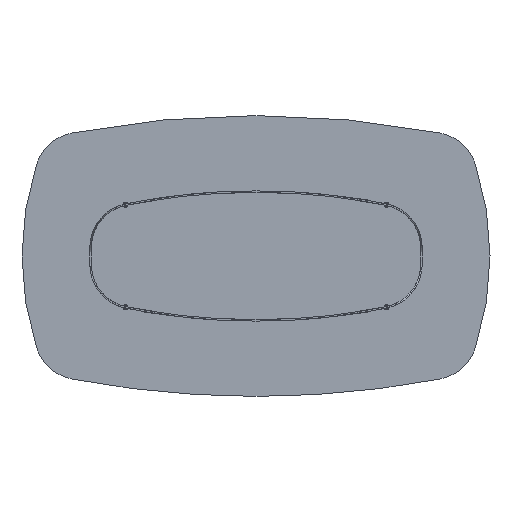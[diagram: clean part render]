
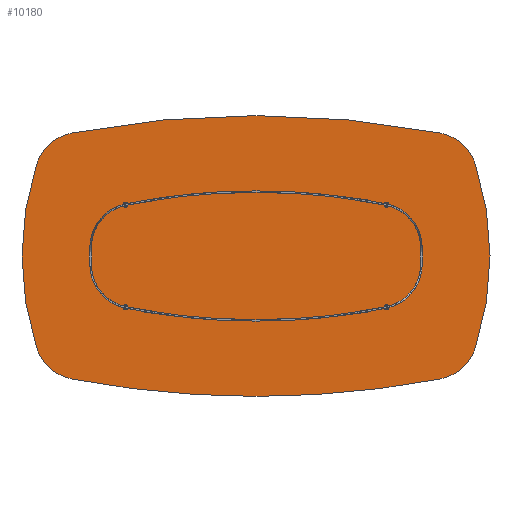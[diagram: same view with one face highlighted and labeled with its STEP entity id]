
A CAD part, front view. The second image highlights one B-rep face of the part: STEP entity #10180.
In plain terms, the highlighted planar face has unit normal (0, -1, 0).
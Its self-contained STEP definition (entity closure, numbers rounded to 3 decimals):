
#264 = DIRECTION ( 'NONE',  ( 0., 1., 0. ) ) ;
#275 = CARTESIAN_POINT ( 'NONE',  ( -747.529, 0., 329.529 ) ) ;
#288 = DIRECTION ( 'NONE',  ( 0., 0., 1. ) ) ;
#370 = VERTEX_POINT ( 'NONE', #10081 ) ;
#1059 = EDGE_CURVE ( 'NONE', #8741, #13940, #4185, .T. ) ;
#1200 = AXIS2_PLACEMENT_3D ( 'NONE', #5312, #2757, #5390 ) ;
#1309 = CARTESIAN_POINT ( 'NONE',  ( 0., 0., -600. ) ) ;
#1480 = CARTESIAN_POINT ( 'NONE',  ( 261., 0., 0. ) ) ;
#1957 = VERTEX_POINT ( 'NONE', #12182 ) ;
#2021 = AXIS2_PLACEMENT_3D ( 'NONE', #9664, #11043, #14874 ) ;
#2625 = CARTESIAN_POINT ( 'NONE',  ( 0., 0., 3600. ) ) ;
#2757 = DIRECTION ( 'NONE',  ( 0., -1., 0. ) ) ;
#3329 = EDGE_CURVE ( 'NONE', #370, #15860, #9333, .T. ) ;
#3656 = ORIENTED_EDGE ( 'NONE', *, *, #13555, .F. ) ;
#3872 = AXIS2_PLACEMENT_3D ( 'NONE', #10861, #4536, #4707 ) ;
#3981 = DIRECTION ( 'NONE',  ( 0., 0., 1. ) ) ;
#4016 = ORIENTED_EDGE ( 'NONE', *, *, #4629, .F. ) ;
#4053 = ORIENTED_EDGE ( 'NONE', *, *, #3329, .F. ) ;
#4185 = CIRCLE ( 'NONE', #2021, 4200. ) ;
#4348 = CARTESIAN_POINT ( 'NONE',  ( -130.5, 0., 1800. ) ) ;
#4536 = DIRECTION ( 'NONE',  ( 0., 1., 0. ) ) ;
#4629 = EDGE_CURVE ( 'NONE', #1957, #14572, #8257, .T. ) ;
#4707 = DIRECTION ( 'NONE',  ( 0., 0., 1. ) ) ;
#4940 = EDGE_CURVE ( 'NONE', #8741, #14572, #10448, .T. ) ;
#5034 = DIRECTION ( 'NONE',  ( 0., -1., 0. ) ) ;
#5312 = CARTESIAN_POINT ( 'NONE',  ( -747.529, 0., -329.529 ) ) ;
#5390 = DIRECTION ( 'NONE',  ( 0., 0., 1. ) ) ;
#5514 = CARTESIAN_POINT ( 'NONE',  ( 937.639, 0., -391.646 ) ) ;
#5528 = VERTEX_POINT ( 'NONE', #1309 ) ;
#5937 = EDGE_CURVE ( 'NONE', #1957, #9618, #15095, .T. ) ;
#6085 = AXIS2_PLACEMENT_3D ( 'NONE', #1480, #10769, #13323 ) ;
#6484 = DIRECTION ( 'NONE',  ( 0., 0., 1. ) ) ;
#6485 = DIRECTION ( 'NONE',  ( 0., 0., 1. ) ) ;
#6692 = EDGE_CURVE ( 'NONE', #370, #13940, #7461, .T. ) ;
#6741 = DIRECTION ( 'NONE',  ( 0., -1., 0. ) ) ;
#6746 = FACE_OUTER_BOUND ( 'NONE', #13751, .T. ) ;
#7461 = CIRCLE ( 'NONE', #9636, 200. ) ;
#7944 = DIRECTION ( 'NONE',  ( 0., -1., 0. ) ) ;
#8024 = DIRECTION ( 'NONE',  ( 0., 0., 1. ) ) ;
#8257 = CIRCLE ( 'NONE', #6085, 1261. ) ;
#8643 = EDGE_CURVE ( 'NONE', #15695, #5528, #12598, .T. ) ;
#8741 = VERTEX_POINT ( 'NONE', #14426 ) ;
#8804 = AXIS2_PLACEMENT_3D ( 'NONE', #11974, #10865, #288 ) ;
#9216 = CARTESIAN_POINT ( 'NONE',  ( 747.529, 0., -329.529 ) ) ;
#9333 = CIRCLE ( 'NONE', #8804, 1261. ) ;
#9409 = ORIENTED_EDGE ( 'NONE', *, *, #11388, .T. ) ;
#9597 = CIRCLE ( 'NONE', #15345, 200. ) ;
#9618 = VERTEX_POINT ( 'NONE', #10879 ) ;
#9619 = CARTESIAN_POINT ( 'NONE',  ( -937.639, 0., 391.646 ) ) ;
#9636 = AXIS2_PLACEMENT_3D ( 'NONE', #14077, #5034, #6484 ) ;
#9664 = CARTESIAN_POINT ( 'NONE',  ( 0., 0., -3600. ) ) ;
#9893 = AXIS2_PLACEMENT_3D ( 'NONE', #275, #7944, #13161 ) ;
#10081 = CARTESIAN_POINT ( 'NONE',  ( 937.639, 0., 391.646 ) ) ;
#10180 = ADVANCED_FACE ( 'NONE', ( #6746 ), #12038, .F. ) ;
#10448 = CIRCLE ( 'NONE', #9893, 200. ) ;
#10769 = DIRECTION ( 'NONE',  ( 0., 1., 0. ) ) ;
#10861 = CARTESIAN_POINT ( 'NONE',  ( 0., 0., 3600. ) ) ;
#10865 = DIRECTION ( 'NONE',  ( 0., 1., 0. ) ) ;
#10879 = CARTESIAN_POINT ( 'NONE',  ( -784.906, 0., -526.006 ) ) ;
#11043 = DIRECTION ( 'NONE',  ( 0., 1., 0. ) ) ;
#11388 = EDGE_CURVE ( 'NONE', #15695, #15860, #9597, .T. ) ;
#11913 = DIRECTION ( 'NONE',  ( 0., 1., 0. ) ) ;
#11974 = CARTESIAN_POINT ( 'NONE',  ( -261., 0., 0. ) ) ;
#12038 = PLANE ( 'NONE',  #16424 ) ;
#12182 = CARTESIAN_POINT ( 'NONE',  ( -937.639, 0., -391.646 ) ) ;
#12292 = ORIENTED_EDGE ( 'NONE', *, *, #8643, .F. ) ;
#12465 = CARTESIAN_POINT ( 'NONE',  ( 784.906, 0., -526.006 ) ) ;
#12598 = CIRCLE ( 'NONE', #3872, 4200. ) ;
#13161 = DIRECTION ( 'NONE',  ( 0., 0., 1. ) ) ;
#13303 = CIRCLE ( 'NONE', #15212, 4200. ) ;
#13323 = DIRECTION ( 'NONE',  ( 0., 0., 1. ) ) ;
#13555 = EDGE_CURVE ( 'NONE', #5528, #9618, #13303, .T. ) ;
#13751 = EDGE_LOOP ( 'NONE', ( #15059, #15905, #4016, #14528, #3656, #12292, #9409, #4053, #15950 ) ) ;
#13940 = VERTEX_POINT ( 'NONE', #14968 ) ;
#14077 = CARTESIAN_POINT ( 'NONE',  ( 747.529, 0., 329.529 ) ) ;
#14426 = CARTESIAN_POINT ( 'NONE',  ( -784.906, 0., 526.006 ) ) ;
#14528 = ORIENTED_EDGE ( 'NONE', *, *, #5937, .T. ) ;
#14572 = VERTEX_POINT ( 'NONE', #9619 ) ;
#14874 = DIRECTION ( 'NONE',  ( 0., 0., 1. ) ) ;
#14968 = CARTESIAN_POINT ( 'NONE',  ( 784.906, 0., 526.006 ) ) ;
#15059 = ORIENTED_EDGE ( 'NONE', *, *, #1059, .F. ) ;
#15095 = CIRCLE ( 'NONE', #1200, 200. ) ;
#15212 = AXIS2_PLACEMENT_3D ( 'NONE', #2625, #11913, #3981 ) ;
#15345 = AXIS2_PLACEMENT_3D ( 'NONE', #9216, #6741, #6485 ) ;
#15695 = VERTEX_POINT ( 'NONE', #12465 ) ;
#15860 = VERTEX_POINT ( 'NONE', #5514 ) ;
#15905 = ORIENTED_EDGE ( 'NONE', *, *, #4940, .T. ) ;
#15950 = ORIENTED_EDGE ( 'NONE', *, *, #6692, .T. ) ;
#16424 = AXIS2_PLACEMENT_3D ( 'NONE', #4348, #264, #8024 ) ;
